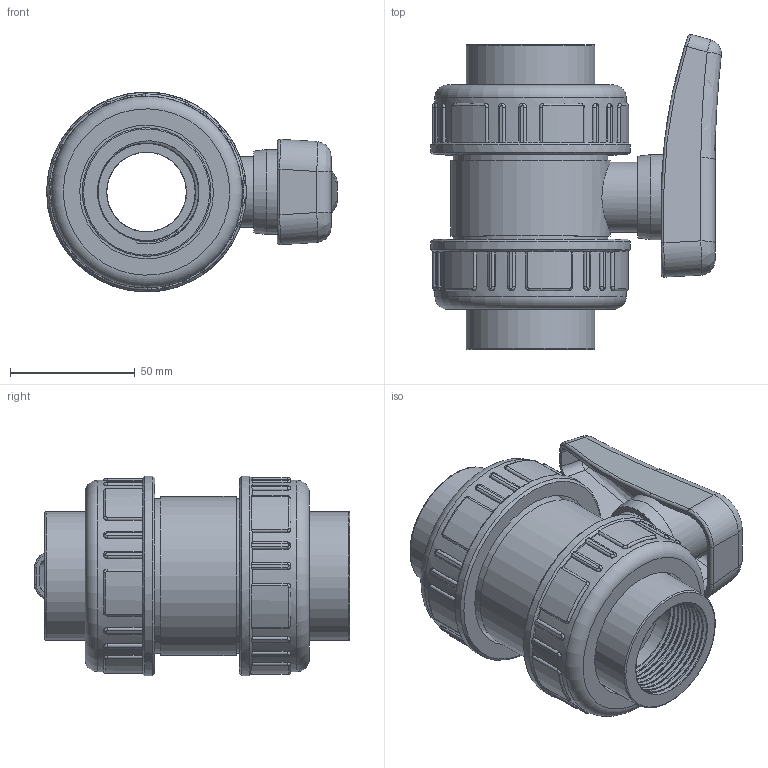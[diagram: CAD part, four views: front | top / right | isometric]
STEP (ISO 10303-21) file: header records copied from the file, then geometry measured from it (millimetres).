
FILE_DESCRIPTION(/* description */ (''),/* implementation_level */ '2;1');
FILE_NAME(/* name */ 'C:\Users\POLYPIPE\Desktop\DATASET INVENTOR\LIBRERIA EFFAST\3D_VALVOLE\3D_VALVOLE A SFERA\3D_BV\3D_BERBVE\3D_BERBVE040E.stp',/* time_stamp */ '2018-01-24T10:00:21+01:00',/* author */ ('POLYPIPE'),/* organization */ (''),/* preprocessor_version */ 'ST-DEVELOPER v16.1',/* originating_system */ 'Autodesk Inventor 2016',/* authorisation */ '');
FILE_SCHEMA (('CONFIG_CONTROL_DESIGN'));
Length unit declared in the file: centimetre
Products named in the file (1): 3D_BERBVE040E
Bounding box: 116.39 x 126.15 x 80 mm (x, y, z)
Volume: 331240.7 mm3; surface area: 98371.4 mm2
Topology: 2 solids, 3 shells, 530 faces, 1358 edges, 851 vertices
Faces by surface type: plane 172, bspline 168, cylinder 165, torus 16, cone 5, sphere 4
Full cylindrical faces by diameter (mm): 18.1 x1, 28.1 x1, 31.8 x1, 32 x2, 34 x1, 35.3 x1, 38.952 x2, 47 x1, 51 x1, 51.5 x2, 53.5 x2, 60 x2, 61.8 x2, 63.7 x1, 65.6 x2, 76.6 x2, 80 x2
Entity records: 67367 total; most frequent: CARTESIAN_POINT 54945, ORIENTED_EDGE 2630, DIRECTION 2177, EDGE_CURVE 1312, VERTEX_POINT 840, AXIS2_PLACEMENT_3D 839, EDGE_LOOP 589, STYLED_ITEM 532
